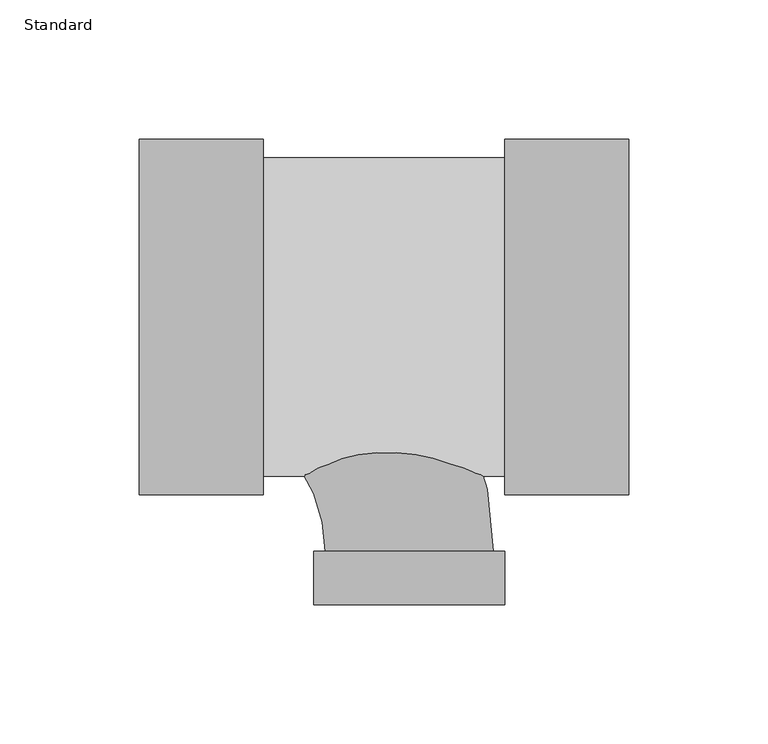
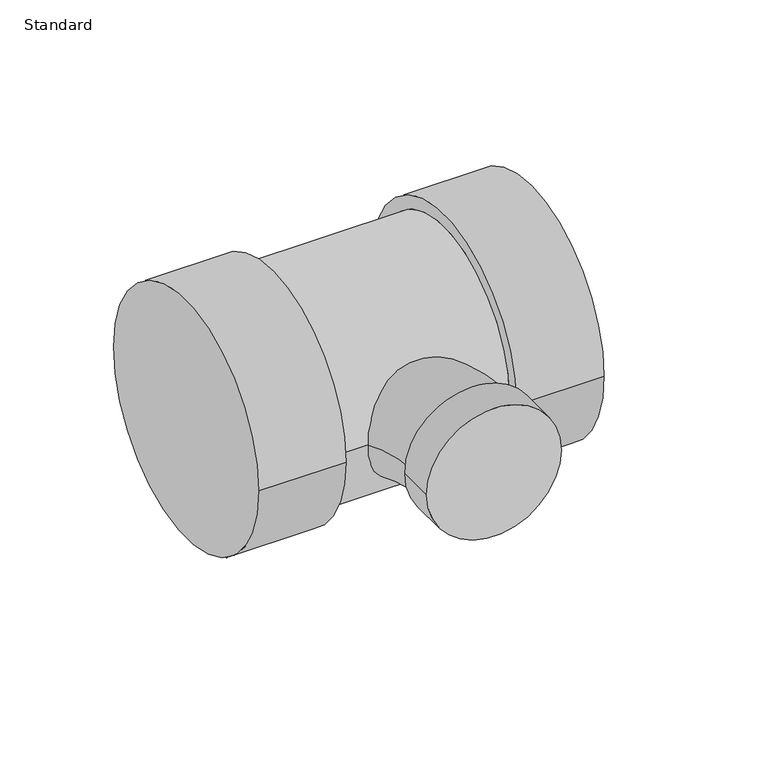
"""IFC4 building model written with IfcOpenShell, lengths in millimetres: pipe fitting geometry, EG-RCAN Té sanitaire de réduction - PVC - Nom. 40 - DWV : Standard."""

import ifcopenshell
import ifcopenshell.guid

model = None  # the IFC model being written
_history = None  # IfcOwnerHistory: only IFC2X3 demands one
_inside = {}  # id of a spatial element -> (the spatial element, [elements in it])
_under = {}  # id of a project, library or spatial element -> (it, [spatial elements below it])
_declared = {}  # id of a project -> (the project, [libraries it declares])
_typed = {}  # id of a type object -> (the type object, [elements of that type])
_made_of = {}  # id of a material, layer set ... -> (it, [elements and type objects made of it])


def new_model(schema):
    """Start an empty IFC model of exactly this schema.

    Asked for "IFC4X3", IfcOpenShell would pick the latest addendum, in which some entities
    have other attributes; the version numbers below select the first issue.
    IFC2X3 requires an IfcOwnerHistory on every rooted entity: one is made here for all.
    """
    global model, _history
    if schema == "IFC4X3":
        model = ifcopenshell.file(schema_version=(4, 3, 0, 0))
    else:
        model = ifcopenshell.file(schema=schema)
    _inside.clear()
    _under.clear()
    _declared.clear()
    _typed.clear()
    _made_of.clear()
    _history = None
    if model.schema == "IFC2X3":
        org = make("IfcOrganization", Name="unknown")
        user = make(
            "IfcPersonAndOrganization",
            ThePerson=make("IfcPerson", FamilyName="unknown"),
            TheOrganization=org,
        )
        app = make(
            "IfcApplication",
            ApplicationDeveloper=org,
            Version="unknown",
            ApplicationFullName="unknown",
            ApplicationIdentifier="unknown",
        )
        _history = make(
            "IfcOwnerHistory",
            OwningUser=user,
            OwningApplication=app,
            ChangeAction="ADDED",
            CreationDate=0,
        )
    return model


def make(cls, **values):
    """One entity of the class cls with the attributes given. An attribute that is None is left unset."""
    return model.create_entity(
        cls, **{name: value for name, value in values.items() if value is not None}
    )


def rooted(cls, **values):
    """An entity with a GlobalId (a new one), such as an element, a storey or a relation."""
    return make(cls, GlobalId=ifcopenshell.guid.new(), OwnerHistory=_history, **values)


def si_unit(unit_type, name, prefix=None):
    """IfcSIUnit, for example si_unit("LENGTHUNIT", "METRE", prefix="MILLI")."""
    return make("IfcSIUnit", UnitType=unit_type, Prefix=prefix, Name=name)


def assignment(units):
    """IfcUnitAssignment: the units of a project."""
    return None if units is None else make("IfcUnitAssignment", Units=units)


def point(xyz):
    """IfcCartesianPoint."""
    return None if xyz is None else make("IfcCartesianPoint", Coordinates=xyz)


def direction(xyz):
    """IfcDirection."""
    return None if xyz is None else make("IfcDirection", DirectionRatios=xyz)


def frame(location, z_axis=None, x_axis=None):
    """IfcAxis2Placement3D, a coordinate frame: its origin and axes. An axis left out is left unset."""
    return make(
        "IfcAxis2Placement3D",
        Location=point(location),
        Axis=direction(z_axis),
        RefDirection=direction(x_axis),
    )


def origin():
    """The frame at (0, 0, 0) with its axes left unset."""
    return frame((0.0, 0.0, 0.0))


def place(relative_to, where):
    """IfcLocalPlacement: puts the frame where relative to a parent placement (None: the world)."""
    return make(
        "IfcLocalPlacement", PlacementRelTo=relative_to, RelativePlacement=where
    )


def context(
    kind, dimensions, precision=None, world=None, true_north=None, identifier=None
):
    """IfcGeometricRepresentationContext, for example the 3D "Model" context."""
    return make(
        "IfcGeometricRepresentationContext",
        ContextIdentifier=identifier,
        ContextType=kind,
        CoordinateSpaceDimension=dimensions,
        Precision=precision,
        WorldCoordinateSystem=world,
        TrueNorth=true_north,
    )


def project(units=None, contexts=None):
    """IfcProject with its units and contexts."""
    return rooted(
        "IfcProject",
        Name="project",
        RepresentationContexts=contexts,
        UnitsInContext=assignment(units),
    )


def spatial(cls, under=None, at=None, **own):
    """A site, building, storey or space (cls), placed at a placement, below another one or the project."""
    s = rooted(cls, ObjectPlacement=at, **own)
    if under is not None:
        _under.setdefault(under.id(), (under, []))[1].append(s)
    return s


def circle_curve(where, radius):
    """IfcCircle in the frame where."""
    return make("IfcCircle", Position=where, Radius=radius)


def ellipse_curve(where, semi_axis1, semi_axis2):
    """IfcEllipse in the frame where."""
    return make(
        "IfcEllipse", Position=where, SemiAxis1=semi_axis1, SemiAxis2=semi_axis2
    )


def trimmed(basis, trim1, trim2, sense, master):
    """IfcTrimmedCurve: the piece of a basis curve between two trims."""
    return make(
        "IfcTrimmedCurve",
        BasisCurve=basis,
        Trim1=trim1,
        Trim2=trim2,
        SenseAgreement=sense,
        MasterRepresentation=master,
    )


def shape(context_of_items, identifier, shape_type, items):
    """IfcShapeRepresentation: the items that make up one representation, for example the "Body"."""
    return make(
        "IfcShapeRepresentation",
        ContextOfItems=context_of_items,
        RepresentationIdentifier=identifier,
        RepresentationType=shape_type,
        Items=items,
    )


def source(mapping_origin, context_of_items, identifier, shape_type, items):
    """IfcRepresentationMap: a shape defined once, which mapped items show again and again."""
    return make(
        "IfcRepresentationMap",
        MappingOrigin=mapping_origin,
        MappedRepresentation=shape(context_of_items, identifier, shape_type, items),
    )


def transform(
    local_origin,
    x_axis=None,
    y_axis=None,
    z_axis=None,
    scale=None,
    scale2=None,
    scale3=None,
    uniform=True,
):
    """IfcCartesianTransformationOperator3D, or its non-uniform kind. x_axis, y_axis, z_axis: its Axis1, 2, 3."""
    if uniform:
        return make(
            "IfcCartesianTransformationOperator3D",
            Axis1=direction(x_axis),
            Axis2=direction(y_axis),
            LocalOrigin=point(local_origin),
            Scale=scale,
            Axis3=direction(z_axis),
        )
    return make(
        "IfcCartesianTransformationOperator3DnonUniform",
        Axis1=direction(x_axis),
        Axis2=direction(y_axis),
        LocalOrigin=point(local_origin),
        Scale=scale,
        Axis3=direction(z_axis),
        Scale2=scale2,
        Scale3=scale3,
    )


def mapped(mapping_source, mapping_target):
    """IfcMappedItem: shows the shape of a source again, moved by a transform."""
    return make(
        "IfcMappedItem", MappingSource=mapping_source, MappingTarget=mapping_target
    )


def made_of(thing, what):
    """Note that an element or type object is made of a material, layer set ...; save() writes the relation."""
    if what is not None:
        _made_of.setdefault(what.id(), (what, []))[1].append(thing)
    return thing


def element(
    cls,
    number,
    at=None,
    inside=None,
    cuts=None,
    type_object=None,
    material=None,
    context=None,
    identifier="Body",
    shape_type=None,
    held_by="IfcProductDefinitionShape",
    body=None,
    shapes=None,
    **own,
):
    """One element of the class cls, such as IfcWall. Its Tag is "e" and its number.

    at: its placement. inside: the storey or other place that contains it. cuts: it is an
    opening in that element (IfcRelVoidsElement). A single representation is given by context,
    identifier, shape_type and body (its items); several are given by shapes. held_by: the class
    of the entity that holds the representations. save() writes the other relations.
    """
    e = rooted(cls, Tag="e%d" % number, ObjectPlacement=at, **own)
    if body is not None:
        shapes = [shape(context, identifier, shape_type, body)]
    if shapes is not None:
        e.Representation = make(held_by, Representations=shapes)
    if inside is not None:
        _inside.setdefault(inside.id(), (inside, []))[1].append(e)
    if cuts is not None:
        rooted(
            "IfcRelVoidsElement", RelatingBuildingElement=cuts, RelatedOpeningElement=e
        )
    if type_object is not None:
        _typed.setdefault(type_object.id(), (type_object, []))[1].append(e)
    return made_of(e, material)


def aggregate(whole, parts):
    """IfcRelAggregates: a whole, such as a stair, and the parts it consists of."""
    return rooted("IfcRelAggregates", RelatingObject=whole, RelatedObjects=parts)


def save(model, path):
    """Write the relations noted so far, then the file.

    IfcRelAggregates (storeys below a building ...), IfcRelContainedInSpatialStructure (elements
    in a storey), IfcRelDefinesByType, IfcRelAssociatesMaterial and IfcRelDeclares: one each for
    every whole, place, type object, material and project.
    """
    for whole, parts in _under.values():
        aggregate(whole, parts)
    for where, things in _inside.values():
        rooted(
            "IfcRelContainedInSpatialStructure",
            RelatedElements=things,
            RelatingStructure=where,
        )
    for kind, things in _typed.values():
        rooted("IfcRelDefinesByType", RelatedObjects=things, RelatingType=kind)
    for what, things in _made_of.values():
        rooted("IfcRelAssociatesMaterial", RelatedObjects=things, RelatingMaterial=what)
    for by, libraries in _declared.values():
        rooted("IfcRelDeclares", RelatingContext=by, RelatedDefinitions=libraries)
    model.write(path)


def plane_surface(at):
    """IfcPlane: the flat surface through the origin of the frame at, square to its z axis."""
    return make("IfcPlane", Position=at)


def cylinder_surface(at, radius):
    """IfcCylindricalSurface: all points at the distance radius from the z axis of the frame at."""
    return make("IfcCylindricalSurface", Position=at, Radius=radius)


def revolved_surface(curve, axis_point, axis_direction):
    """IfcSurfaceOfRevolution: the curve turned about the line through axis_point along axis_direction."""
    return make(
        "IfcSurfaceOfRevolution",
        SweptCurve=make("IfcArbitraryOpenProfileDef", ProfileType="CURVE", Curve=curve),
        AxisPosition=make("IfcAxis1Placement", Location=point(axis_point), Axis=direction(axis_direction)),
    )


def advanced_brep(points, edges, surfaces, faces):
    """IfcAdvancedBrep: a solid bounded by faces that lie on surfaces and meet in shared edges.

    An edge is (start, end): straight between two places in points (the first is 0);
    or (start, end, curve); or (start, end, curve, False) where it runs against its curve.
    A face is (place in surfaces, loops), or (place, loops, False) where it looks against
    its surface's normal. A loop lists edges by number (the first is 1), with a minus sign
    where the edge is run from its end to its start. The first loop is the outer one.
    """
    corners = [point(p) for p in points]
    vertices = [make("IfcVertexPoint", VertexGeometry=c) for c in corners]
    made = []
    for start, end, *more in edges:
        made.append(
            make(
                "IfcEdgeCurve",
                EdgeStart=vertices[start],
                EdgeEnd=vertices[end],
                EdgeGeometry=more[0] if more else make("IfcPolyline", Points=[corners[start], corners[end]]),
                SameSense=more[1] if len(more) > 1 else True,
            )
        )
    hull = []
    for where, loops, *sense in faces:
        bounds = []
        for j, loop in enumerate(loops):
            ring = [make("IfcOrientedEdge", EdgeElement=made[abs(k) - 1], Orientation=k > 0) for k in loop]
            bounds.append(
                make(
                    "IfcFaceOuterBound" if j == 0 else "IfcFaceBound",
                    Bound=make("IfcEdgeLoop", EdgeList=ring),
                    Orientation=True,
                )
            )
        hull.append(make("IfcAdvancedFace", Bounds=bounds, FaceSurface=surfaces[where], SameSense=sense[0] if sense else True))
    return make("IfcAdvancedBrep", Outer=make("IfcClosedShell", CfsFaces=hull))


def standard_a6eaa7f7(model_context):
    return source(origin(), model_context, "Body", "AdvancedBrep", [
        advanced_brep(
        [(34.3150983, -63.754, 0.0), (34.3150983, 63.754, 0.0), (34.3150983, -57.15, 0.0), (34.3150983, 57.15, 0.0), (78.7650983, -63.754, 0.0), (78.7650983, 63.754, 0.0), (-52.4002, 57.15, 0.0), (-52.4002, -57.15, 0.0), (-96.8502, -63.754, 0.0), (-96.8502, 63.754, 0.0), (-52.4002, -63.754, 0.0), (-52.4002, 63.754, 0.0)],
        [
            (0, 1, circle_curve(frame((34.3150983, 0.0, 0.0), z_axis=(-1.0, 0.0, 0.0), x_axis=(0.0, 1.0, 0.0)), 63.754)),
            (1, 0, circle_curve(frame((34.3150983, 0.0, 0.0), z_axis=(-1.0, 0.0, 0.0), x_axis=(0.0, 1.0, 0.0)), 63.754)),
            (2, 3, circle_curve(frame((34.3150983, 0.0, 0.0), z_axis=(1.0, 0.0, 0.0), x_axis=(0.0, 0.0, -1.0)), 57.15)),
            (3, 2, circle_curve(frame((34.3150983, 0.0, 0.0), z_axis=(1.0, 0.0, 0.0), x_axis=(0.0, 0.0, 1.0)), 57.15)),
            (4, 5, circle_curve(frame((78.7650983, 0.0, 0.0), z_axis=(1.0, 0.0, 0.0), x_axis=(0.0, 1.0, 0.0)), 63.754)),
            (5, 4, circle_curve(frame((78.7650983, 0.0, 0.0), z_axis=(1.0, 0.0, 0.0), x_axis=(0.0, 1.0, 0.0)), 63.754)),
            (0, 4),
            (5, 1),
            (6, 3),
            (2, 7),
            (7, 6, circle_curve(frame((-52.4002, 0.0, 0.0), z_axis=(1.0, 0.0, 0.0), x_axis=(0.0, 0.0, -1.0)), 57.15)),
            (6, 7, circle_curve(frame((-52.4002, 0.0, 0.0), z_axis=(1.0, 0.0, 0.0), x_axis=(0.0, 0.0, 1.0)), 57.15)),
            (8, 9, circle_curve(frame((-96.8502, 0.0, 0.0), z_axis=(-1.0, 0.0, 0.0), x_axis=(0.0, 1.0, 0.0)), 63.754)),
            (9, 8, circle_curve(frame((-96.8502, 0.0, 0.0), z_axis=(-1.0, 0.0, 0.0), x_axis=(0.0, 1.0, 0.0)), 63.754)),
            (10, 11, circle_curve(frame((-52.4002, 0.0, 0.0), z_axis=(1.0, 0.0, 0.0), x_axis=(0.0, 1.0, 0.0)), 63.754)),
            (11, 10, circle_curve(frame((-52.4002, 0.0, 0.0), z_axis=(1.0, 0.0, 0.0), x_axis=(0.0, 1.0, 0.0)), 63.754)),
            (8, 10),
            (11, 9),
        ],
        [
            plane_surface(frame((34.3150983, 0.0, 0.0), z_axis=(-1.0, 0.0, 0.0), x_axis=(0.0, 0.0, 1.0))),
            plane_surface(frame((78.7650983, 0.0, 0.0), z_axis=(1.0, 0.0, 0.0), x_axis=(0.0, 0.0, 1.0))),
            cylinder_surface(frame((34.3150983, 0.0, 0.0), z_axis=(-1.0, 0.0, 0.0), x_axis=(0.0, 1.0, 0.0)), 63.754),
            cylinder_surface(frame((-52.4002, 0.0, 0.0), z_axis=(1.0, 0.0, 0.0), x_axis=(0.0, 0.0, -1.0)), 57.15),
            cylinder_surface(frame((-52.4002, 0.0, 0.0), z_axis=(1.0, 0.0, 0.0), x_axis=(0.0, 0.0, 1.0)), 57.15),
            plane_surface(frame((-96.8502, 0.0, 0.0), z_axis=(-1.0, 0.0, 0.0), x_axis=(0.0, 0.0, 1.0))),
            plane_surface(frame((-52.4002, 0.0, 0.0), z_axis=(1.0, 0.0, 0.0), x_axis=(0.0, 0.0, 1.0))),
            cylinder_surface(frame((-96.8502, 0.0, 0.0), z_axis=(-1.0, 0.0, 0.0), x_axis=(0.0, 1.0, 0.0)), 63.754),
        ],
        [
            (0, [[1, 2], [3, 4]]),
            (1, [[5, 6]]),
            (2, [[-1, 7, -6, 8]]),
            (2, [[-2, -8, -5, -7]]),
            (3, [[9, -3, 10, 11]]),
            (4, [[-9, 12, -10, -4]]),
            (5, [[13, 14]]),
            (6, [[15, 16], [-11, -12]]),
            (7, [[-13, 17, -16, 18]]),
            (7, [[-14, -18, -15, -17]]),
        ],
    ),
        advanced_brep(
        [(-34.3157017, -84.150077, 0.0), (34.3150983, -84.150323, 0.0), (30.1621983, -84.1503081, 0.0), (-30.1628017, -84.1500919, 0.0), (-34.3157699, -103.200077, 0.0), (34.3150301, -103.200323, 0.0), (-84.1502, -30.1625, 0.0), (-84.1502, 30.1625, 0.0)],
        [
            (0, 1, circle_curve(frame((-0.0003017, -84.1502, 0.0), z_axis=(3.5847440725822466e-06, 0.9999999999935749, 0.0), x_axis=(0.9999999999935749, -3.5847440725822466e-06, 0.0)), 34.3154)),
            (1, 0, circle_curve(frame((-0.0003017, -84.1502, 0.0), z_axis=(3.5847440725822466e-06, 0.9999999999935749, 0.0), x_axis=(0.9999999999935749, -3.5847440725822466e-06, 0.0)), 34.3154)),
            (2, 3, circle_curve(frame((-0.0003017, -84.1502, 0.0), z_axis=(-3.584744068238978e-06, -0.9999999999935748, 0.0), x_axis=(0.9999999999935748, -3.584744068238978e-06, 0.0)), 30.1625)),
            (3, 2, circle_curve(frame((-0.0003017, -84.1502, 0.0), z_axis=(-3.584744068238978e-06, -0.9999999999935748, 0.0), x_axis=(0.9999999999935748, -3.584744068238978e-06, 0.0)), 30.1625)),
            (4, 5, circle_curve(frame((-0.0003699, -103.2002, 0.0), z_axis=(-3.5847440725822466e-06, -0.9999999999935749, 0.0), x_axis=(0.9999999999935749, -3.5847440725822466e-06, 0.0)), 34.3154)),
            (5, 4, circle_curve(frame((-0.0003699, -103.2002, 0.0), z_axis=(-3.5847440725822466e-06, -0.9999999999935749, 0.0), x_axis=(0.9999999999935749, -3.5847440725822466e-06, 0.0)), 34.3154)),
            (0, 4),
            (5, 1),
            (6, 7, circle_curve(frame((-84.1502, 0.0, 0.0), z_axis=(-1.0, 0.0, 0.0), x_axis=(0.0, 1.0, 0.0)), 30.1625)),
            (7, 6, circle_curve(frame((-84.1502, 0.0, 0.0), z_axis=(-1.0, 0.0, 0.0), x_axis=(0.0, 1.0, 0.0)), 30.1625)),
            (6, 3, circle_curve(frame((-84.1502, -84.1498983, 0.0), z_axis=(0.0, 0.0, -1.0), x_axis=(0.0, 1.0, 0.0)), 53.9873983)),
            (2, 7, circle_curve(frame((-84.1502, -84.1498983, 0.0), z_axis=(0.0, 0.0, 1.0), x_axis=(0.0, 1.0, 0.0)), 114.3123983)),
        ],
        [
            plane_surface(frame((-0.0003017, -84.1502, 0.0), z_axis=(3.5847440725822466e-06, 0.9999999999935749, 0.0), x_axis=(0.0, 0.0, 1.0))),
            plane_surface(frame((-0.0003699, -103.2002, 0.0), z_axis=(-3.5847440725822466e-06, -0.9999999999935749, 0.0), x_axis=(0.0, 0.0, 1.0))),
            cylinder_surface(frame((-0.0003017, -84.1502, 0.0), z_axis=(3.5847440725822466e-06, 0.9999999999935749, 0.0), x_axis=(0.9999999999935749, -3.5847440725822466e-06, 0.0)), 34.3154),
            plane_surface(frame((-84.1502, 0.0, 0.0), z_axis=(-1.0, 0.0, 0.0), x_axis=(0.0, 0.0, 1.0))),
            revolved_surface(trimmed(ellipse_curve(frame((-84.1502, 0.0, 0.0), z_axis=(-1.0, 0.0, 0.0), x_axis=(0.0, 1.0, 0.0)), 30.1625, 30.1625), [point((-84.1502, -30.1625, 0.0))], [point((-84.1502, 30.1625, 0.0))], True, "CARTESIAN"), (-84.1502, -84.1498983, 0.0), (0.0, 0.0, -1.0)),
            revolved_surface(trimmed(ellipse_curve(frame((-84.1502, 0.0, 0.0), z_axis=(-1.0, 0.0, 0.0), x_axis=(0.0, 1.0, 0.0)), 30.1625, 30.1625), [point((-84.1502, 30.1625, 0.0))], [point((-84.1502, -30.1625, 0.0))], True, "CARTESIAN"), (-84.1502, -84.1498983, 0.0), (0.0, 0.0, -1.0)),
        ],
        [
            (0, [[1, 2], [3, 4]]),
            (1, [[5, 6]]),
            (2, [[-1, 7, -6, 8]]),
            (2, [[-2, -8, -5, -7]]),
            (3, [[9, 10]]),
            (4, [[-9, 11, -3, 12]]),
            (5, [[-10, -12, -4, -11]]),
        ],
    ),
    ])


if __name__ == "__main__":
    model = new_model("IFC4")
    model_context = context("Model", 3, world=origin())
    ifc_project = project(units=[si_unit("LENGTHUNIT", "METRE", prefix="MILLI")], contexts=[model_context])
    site = spatial("IfcSite", under=ifc_project)
    building = spatial("IfcBuilding", under=site)
    placement = place(None, origin())
    standard_shape = standard_a6eaa7f7(model_context)
    element("IfcPipeFitting", 1, ObjectType="EG-RCAN Té sanitaire de réduction - PVC - Nom. 40 - DWV : Standard", at=placement, inside=building, context=model_context, shape_type="MappedRepresentation", body=[
        mapped(standard_shape, transform((0.0, 0.0, 0.0), x_axis=(1.0, 0.0, 0.0), y_axis=(0.0, 1.0, 0.0), z_axis=(0.0, 0.0, 1.0))),
    ])
    save(model, "model.ifc")
